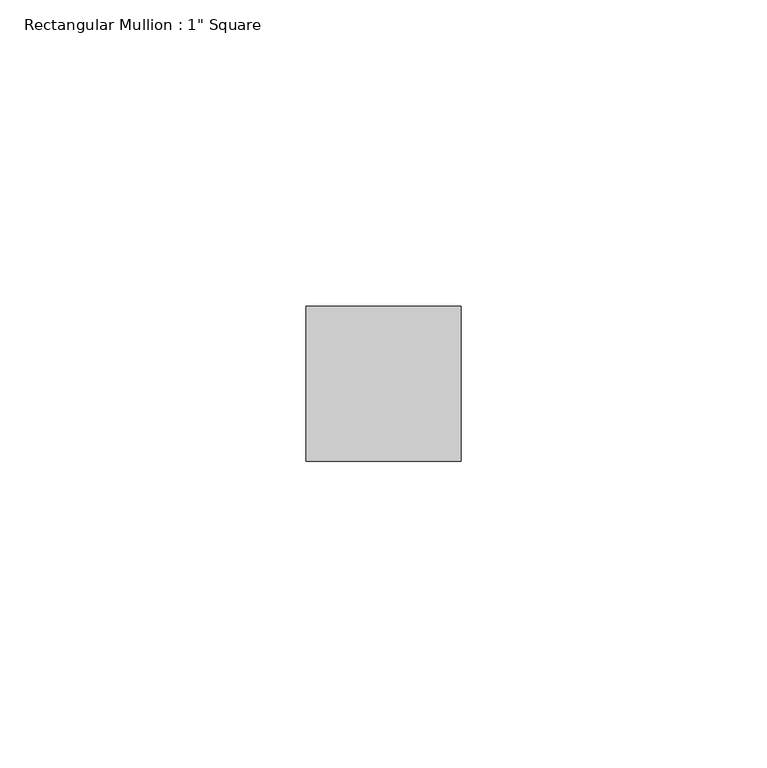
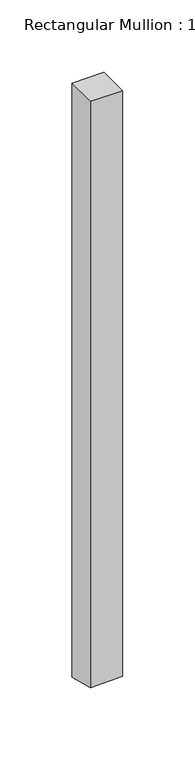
"""IFC4 building model written with IfcOpenShell, lengths in millimetres: member geometry."""

from ifc_helpers import new_model, si_unit, origin, place, context, project, spatial, faceted_brep, source, transform, mapped, element, save


def member_0cc87893(model_context):
    return source(origin(), model_context, "Body", "Brep", [
        faceted_brep([(0.0, 12.7, 0.0), (-25.4, 12.7, 0.0), (-25.4, -12.7, 0.0), (0.0, -12.7, 0.0), (0.0, 12.7, -500.0390695), (-25.4, 12.7, -500.5603987), (-25.4, -12.7, -493.8981885), (0.0, -12.7, -493.3768594)], [[[0, 1, 2, 3]], [[1, 0, 4, 5]], [[2, 1, 5, 6]], [[3, 2, 6, 7]], [[0, 3, 7, 4]], [[4, 7, 6, 5]]]),
    ])


if __name__ == "__main__":
    model = new_model("IFC4")
    model_context = context("Model", 3, world=origin())
    ifc_project = project(units=[si_unit("LENGTHUNIT", "METRE", prefix="MILLI")], contexts=[model_context])
    site = spatial("IfcSite", under=ifc_project)
    building = spatial("IfcBuilding", under=site)
    placement = place(None, origin())
    member_shape = member_0cc87893(model_context)
    element("IfcMember", 1, ObjectType="Rectangular Mullion : 1\" Square", at=placement, inside=building, context=model_context, shape_type="MappedRepresentation", body=[
        mapped(member_shape, transform((0.0, 0.0, 0.0), x_axis=(1.0, 0.0, 0.0), y_axis=(0.0, 1.0, 0.0), z_axis=(0.0, 0.0, 1.0))),
    ])
    save(model, "model.ifc")
